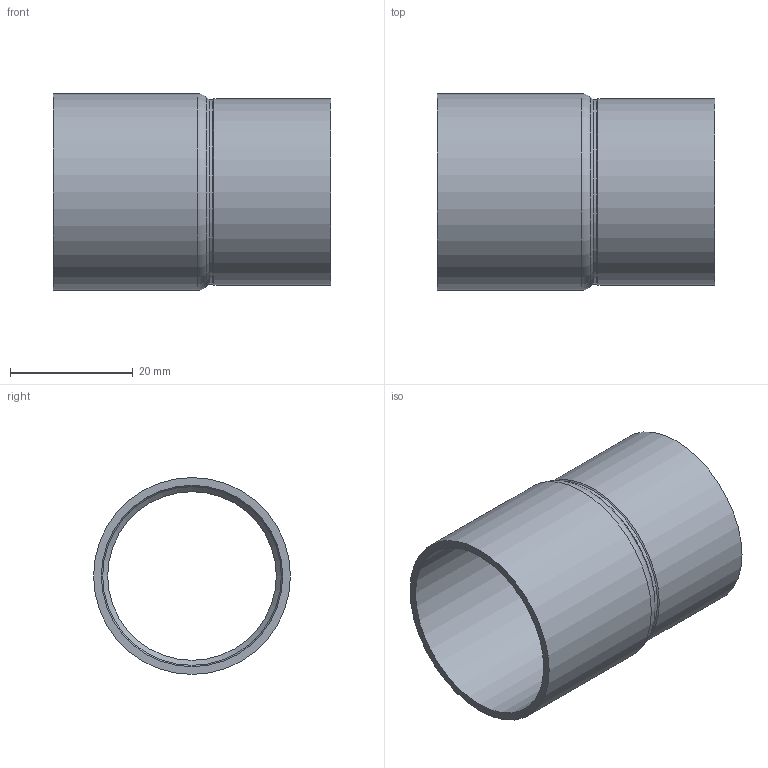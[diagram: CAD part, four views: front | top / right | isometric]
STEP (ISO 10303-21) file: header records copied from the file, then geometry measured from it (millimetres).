
FILE_DESCRIPTION((''),'2;1');
FILE_NAME('G:\SANHA-TERNAT\Technik\Deckel\UUU\MT3\E235\152433228.stp','2010-10-26T16:08:13',('vdvijverd'),(''),'Autodesk Inventor 2009','Autodesk Inventor 2009','');
FILE_SCHEMA(('AUTOMOTIVE_DESIGN { 1 0 10303 214 1 1 1 1 }'));
Length unit declared in the file: millimetre
Products named in the file (1): 152433228
Bounding box: 45.19 x 32 x 32 mm (x, y, z)
Volume: 5370.2 mm3; surface area: 8826.7 mm2
Topology: 1 solids, 1 shells, 14 faces, 26 edges, 14 vertices
Faces by surface type: cylinder 6, cone 4, plane 2, bspline 1, torus 1
Full cylindrical faces by diameter (mm): 27.42 x1, 27.82 x1, 29.5 x1, 29.92 x1, 30.32 x1, 32 x1
Entity records: 354 total; most frequent: CARTESIAN_POINT 87, DIRECTION 56, AXIS2_PLACEMENT_3D 28, ORIENTED_EDGE 28, EDGE_LOOP 28, VERTEX_POINT 14, CIRCLE 14, EDGE_CURVE 14
